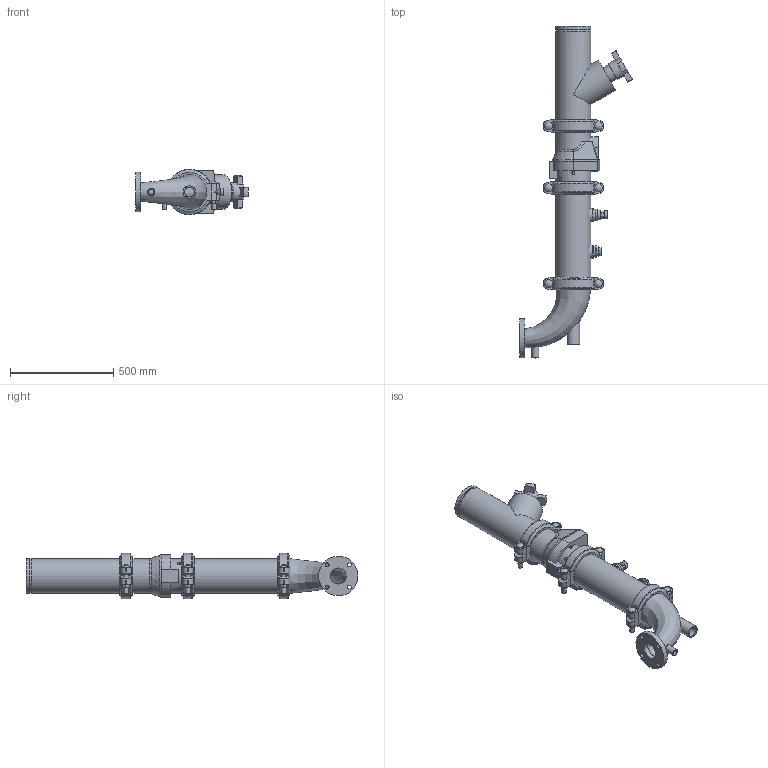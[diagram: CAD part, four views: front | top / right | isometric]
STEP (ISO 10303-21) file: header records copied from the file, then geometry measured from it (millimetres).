
FILE_DESCRIPTION(/* description */ ('VIC DVI PUMP DROP HORZ S/383 (OGSxFLG) (S/924-0.75)','CAx-IF Rec.Pracs.---Representation and Presentation of Product Manufacturing Information (PMI)---4.0---2014-10-13'),/* implementation_level */ '2;1');
FILE_NAME(/* name */ 'C:\Users\Vjadhav\AppData\Roaming\Autodesk\ApplicationPlugins\Victaulic.Temp\A892\Victaulic_IPS_Horizontal DVI_CL 150_Series 383 (OGSxFLG)_924 (0.75)_06.0x03.0 (150x80).stp',/* time_stamp */ '2022-02-28T15:44:08+05:00',/* author */ ('kkamble'),/* organization */ ('Victaulic'),/* preprocessor_version */ 'ST-DEVELOPER v17.2',/* originating_system */ 'Autodesk Inventor 2019',/* authorisation */ '');
FILE_SCHEMA (('AP242_MANAGED_MODEL_BASED_3D_ENGINEERING_MIM_LF { 1 0 10303 442 1 1 4 }'));
Length unit declared in the file: inch
Products named in the file (8): 383-924 (0.75)-06.0x03.0; Pipe-06.0x03.0; 789-06.0; 177N-06.0; 779-06.0; 924-04.0x0.75; 923-04.0x0.75; R100F-06.0x03.0
Assembly tree (9 placements, depth 2):
  383-924 (0.75)-06.0x03.0
    177N-06.0  x3
    Pipe-06.0x03.0
    789-06.0
    779-06.0
    924-04.0x0.75
    923-04.0x0.75
    R100F-06.0x03.0
Bounding box: 546.1 x 1604.96 x 219.2 mm (x, y, z)
Volume: 14961759.9 mm3; surface area: 2400689.7 mm2
Topology: 9 solids, 9 shells, 525 faces, 1383 edges, 928 vertices
Faces by surface type: plane 305, cylinder 173, torus 18, cone 17, sphere 6, bspline 6
Full cylindrical faces by diameter (mm): 13.716 x4, 19.05 x4, 21.209 x6, 26.67 x3, 34.29 x1, 37.694 x6, 38.608 x1, 45.974 x4, 48.26 x1, 55.626 x2, 60.96 x1, 77.927 x1, 79.375 x1, 88.9 x1, 154.051 x4, 155.575 x3, 163.957 x7, 168.275 x18, 190.5 x1
Entity records: 12665 total; most frequent: CARTESIAN_POINT 3424, DIRECTION 1888, ORIENTED_EDGE 1746, EDGE_CURVE 873, AXIS2_PLACEMENT_3D 722, VERTEX_POINT 592, LINE 444, VECTOR 444
